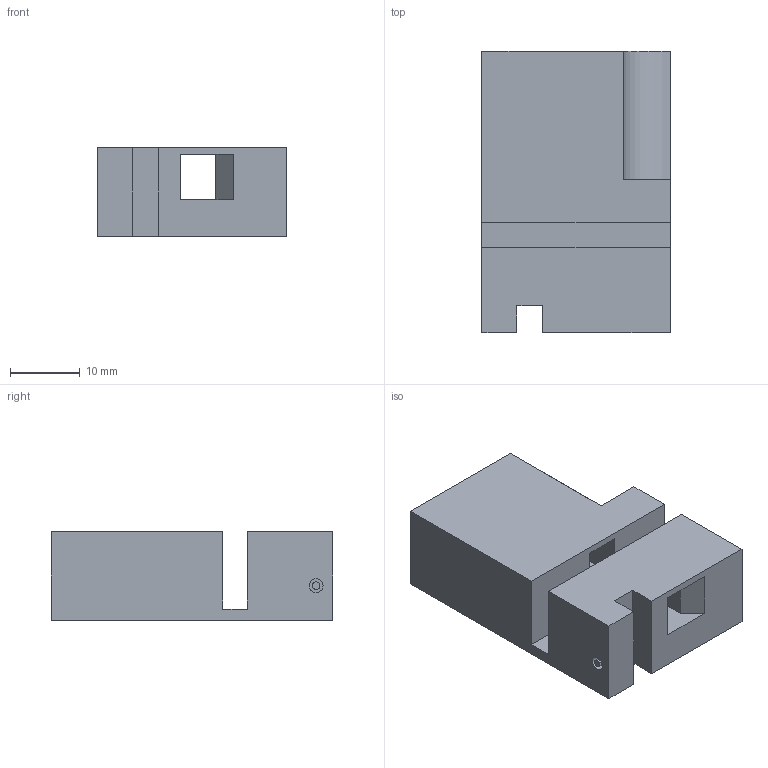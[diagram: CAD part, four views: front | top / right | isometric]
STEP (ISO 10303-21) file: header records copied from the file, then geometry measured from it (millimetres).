
FILE_DESCRIPTION(('Open CASCADE Model'),'2;1');
FILE_NAME('Open CASCADE Shape Model','2021-05-04T14:12:18',('Author'),( 'Open CASCADE'),'Open CASCADE STEP processor 7.4','Open CASCADE 7.4' ,'Unknown');
FILE_SCHEMA(('AUTOMOTIVE_DESIGN { 1 0 10303 214 1 1 1 1 }'));
Length unit declared in the file: millimetre
Products named in the file (1): Open CASCADE STEP translator 7.4 1753
Bounding box: 27.09 x 40.46 x 12.8 mm (x, y, z)
Volume: 10359.8 mm3; surface area: 5322.9 mm2
Topology: 1 solids, 1 shells, 35 faces, 95 edges, 64 vertices
Faces by surface type: plane 29, cylinder 6
Full cylindrical faces by diameter (mm): 1.102 x1, 2 x1
Entity records: 2326 total; most frequent: CARTESIAN_POINT 445, DIRECTION 329, LINE 225, VECTOR 225, ORIENTED_EDGE 190, PCURVE 190, DEFINITIONAL_REPRESENTATION 190, EDGE_CURVE 95
